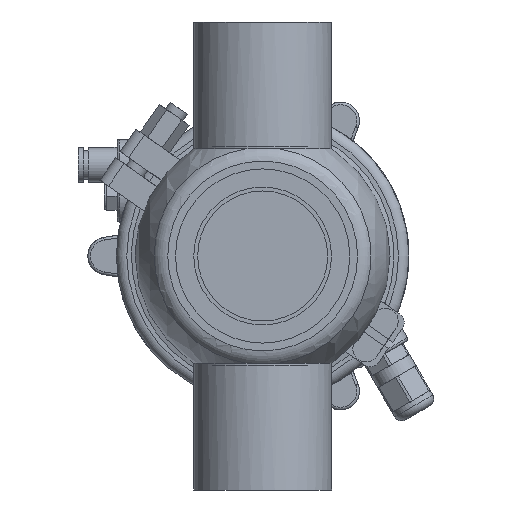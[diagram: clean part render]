
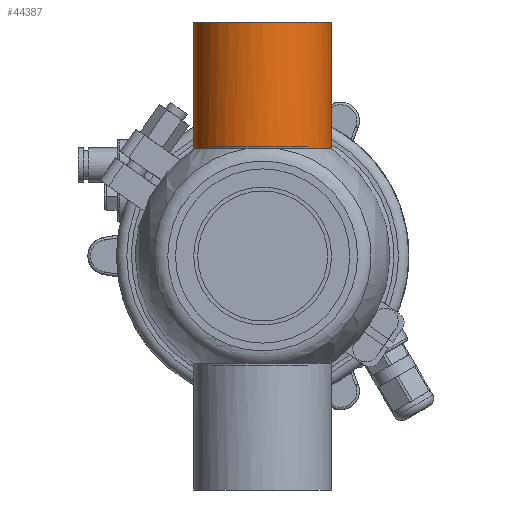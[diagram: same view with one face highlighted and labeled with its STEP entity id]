
A CAD part, front view. The second image highlights one B-rep face of the part: STEP entity #44387.
In plain terms, the highlighted cylindrical face has radius 26.5 mm (diameter 53 mm), a full revolution.
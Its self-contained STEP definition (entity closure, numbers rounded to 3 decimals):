
#1501 = ORIENTED_EDGE ( 'NONE', *, *, #60511, .T. ) ;
#3382 = VERTEX_POINT ( 'NONE', #31112 ) ;
#6299 = EDGE_CURVE ( 'NONE', #3382, #3382, #17527, .T. ) ;
#8509 = EDGE_CURVE ( 'NONE', #19741, #30270, #27234, .T. ) ;
#8874 = EDGE_LOOP ( 'NONE', ( #17784 ) ) ;
#10002 = DIRECTION ( 'NONE',  ( 0., 0., 1. ) ) ;
#11864 = CARTESIAN_POINT ( 'NONE',  ( 41.148, -26.499, 1.097 ) ) ;
#12466 = CARTESIAN_POINT ( 'NONE',  ( 41.216, -25.976, -5.353 ) ) ;
#13459 = CYLINDRICAL_SURFACE ( 'NONE', #59746, 26.5 ) ;
#14422 = EDGE_LOOP ( 'NONE', ( #35438, #1501 ) ) ;
#15197 = CARTESIAN_POINT ( 'NONE',  ( 41.216, 0., 0. ) ) ;
#16497 = CARTESIAN_POINT ( 'NONE',  ( 41.216, -25.714, -6.407 ) ) ;
#17527 = CIRCLE ( 'NONE', #60930, 26.5 ) ;
#17782 = CARTESIAN_POINT ( 'NONE',  ( 0., 0., 0. ) ) ;
#17784 = ORIENTED_EDGE ( 'NONE', *, *, #6299, .T. ) ;
#19622 = B_SPLINE_CURVE_WITH_KNOTS ( 'NONE', 3,
 ( #57261, #44230, #48893, #58808, #11864, #49504, #26023, #30649, #34668, #50108, #12466, #16497 ),
 .UNSPECIFIED., .F., .F.,
 ( 4, 2, 2, 2, 2, 4 ),
 ( 0., 0.003, 0.006, 0.008, 0.01, 0.013 ),
 .UNSPECIFIED. ) ;
#19741 = VERTEX_POINT ( 'NONE', #55315 ) ;
#20445 = DIRECTION ( 'NONE',  ( 1., 0., 0. ) ) ;
#22710 = DIRECTION ( 'NONE',  ( 0., 0., 1. ) ) ;
#26023 = CARTESIAN_POINT ( 'NONE',  ( 41.151, -26.485, -1.052 ) ) ;
#27234 = CIRCLE ( 'NONE', #48952, 26.5 ) ;
#27896 = FACE_OUTER_BOUND ( 'NONE', #14422, .T. ) ;
#30270 = VERTEX_POINT ( 'NONE', #49362 ) ;
#30649 = CARTESIAN_POINT ( 'NONE',  ( 41.162, -26.42, -2.131 ) ) ;
#31112 = CARTESIAN_POINT ( 'NONE',  ( 90., 0., 26.5 ) ) ;
#33966 = DIRECTION ( 'NONE',  ( 0., 0., 1. ) ) ;
#34668 = CARTESIAN_POINT ( 'NONE',  ( 41.17, -26.37, -2.673 ) ) ;
#35438 = ORIENTED_EDGE ( 'NONE', *, *, #8509, .T. ) ;
#37437 = DIRECTION ( 'NONE',  ( -1., 0., 0. ) ) ;
#44230 = CARTESIAN_POINT ( 'NONE',  ( 41.216, -25.976, 5.353 ) ) ;
#44387 = ADVANCED_FACE ( 'NONE', ( #27896, #60082 ), #13459, .T. ) ;
#48893 = CARTESIAN_POINT ( 'NONE',  ( 41.196, -26.172, 4.294 ) ) ;
#48952 = AXIS2_PLACEMENT_3D ( 'NONE', #15197, #20445, #33966 ) ;
#49362 = CARTESIAN_POINT ( 'NONE',  ( 41.216, -25.714, 6.407 ) ) ;
#49504 = CARTESIAN_POINT ( 'NONE',  ( 41.148, -26.5, -0.514 ) ) ;
#50108 = CARTESIAN_POINT ( 'NONE',  ( 41.196, -26.173, -4.288 ) ) ;
#52263 = CARTESIAN_POINT ( 'NONE',  ( 90., 0., 0. ) ) ;
#55315 = CARTESIAN_POINT ( 'NONE',  ( 41.216, -25.714, -6.407 ) ) ;
#57261 = CARTESIAN_POINT ( 'NONE',  ( 41.216, -25.714, 6.407 ) ) ;
#57556 = DIRECTION ( 'NONE',  ( -1., 0., 0. ) ) ;
#58808 = CARTESIAN_POINT ( 'NONE',  ( 41.162, -26.433, 2.166 ) ) ;
#59746 = AXIS2_PLACEMENT_3D ( 'NONE', #17782, #37437, #22710 ) ;
#60082 = FACE_OUTER_BOUND ( 'NONE', #8874, .T. ) ;
#60511 = EDGE_CURVE ( 'NONE', #30270, #19741, #19622, .T. ) ;
#60930 = AXIS2_PLACEMENT_3D ( 'NONE', #52263, #57556, #10002 ) ;
